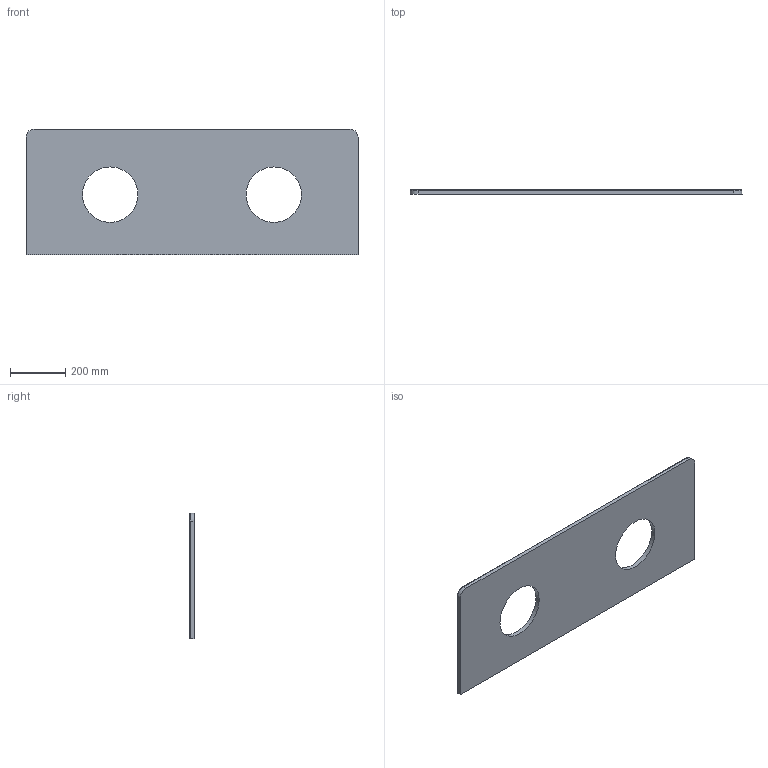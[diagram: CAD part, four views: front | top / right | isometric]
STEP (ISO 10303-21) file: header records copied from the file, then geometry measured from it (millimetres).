
FILE_DESCRIPTION(('FreeCAD Model'),'2;1');
FILE_NAME('Open CASCADE Shape Model','2025-05-30T21:18:33',(''),(''), 'Open CASCADE STEP processor 7.8','FreeCAD','Unknown');
FILE_SCHEMA(('AUTOMOTIVE_DESIGN { 1 0 10303 214 1 1 1 1 }'));
Length unit declared in the file: millimetre
Products named in the file (2): TopLevelAssembly; Po\X2\01420105\X0\czona geometria bry\X2\0142\X0\owa
Assembly tree (1 placements, depth 2):
  TopLevelAssembly
    Po\X2\01420105\X0\czona geometria bry\X2\0142\X0\owa
Bounding box: 1197 x 16 x 454 mm (x, y, z)
Volume: 7677161.2 mm3; surface area: 1030663.6 mm2
Topology: 1 solids, 1 shells, 17 faces, 41 edges, 26 vertices
Faces by surface type: cylinder 7, plane 6, bspline 4
Entity records: 561 total; most frequent: CARTESIAN_POINT 112, DIRECTION 91, ORIENTED_EDGE 82, EDGE_CURVE 41, AXIS2_PLACEMENT_3D 35, VERTEX_POINT 26, FACE_BOUND 21, EDGE_LOOP 21
